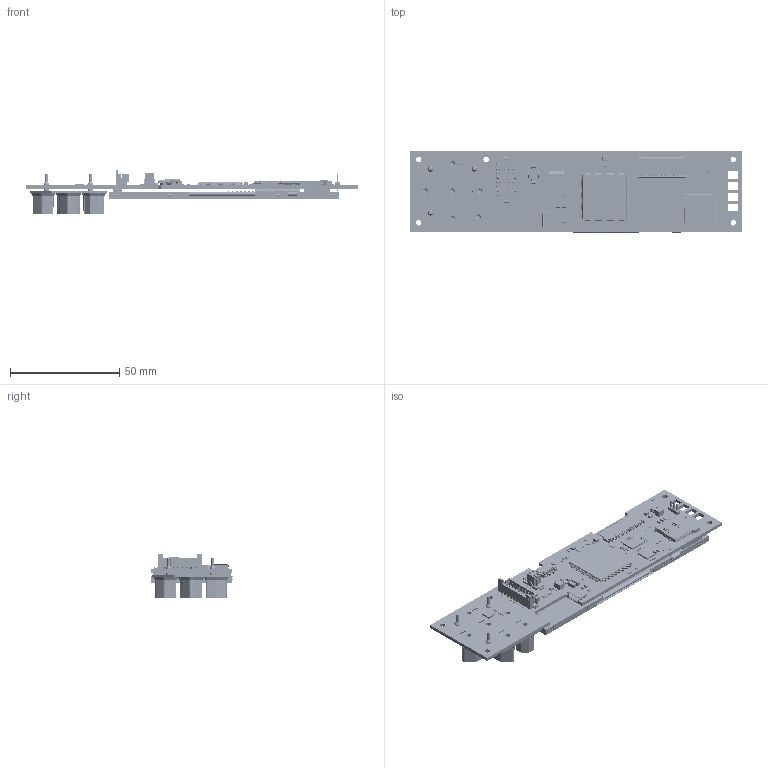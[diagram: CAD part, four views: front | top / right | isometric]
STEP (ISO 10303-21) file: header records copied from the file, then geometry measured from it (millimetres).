
FILE_DESCRIPTION (( 'STEP AP214' ), '1' );
FILE_NAME ('CFA039A0-N-VDNT.STEP', '2025-03-05T21:58:36', ( '' ), ( '' ), 'SwSTEP 2.0', 'SolidWorks 2021', '' );
FILE_SCHEMA (( 'AUTOMOTIVE_DESIGN' ));
Length unit declared in the file: millimetre
Products named in the file (54): INDC1005X06N_CMP-007-000017-2; 16110_CAM_00191_SCH-1; BGA24C100P5X5_600X800X100_CMP-019-00054-1; 15031_CAM_CMP-008-000007-2; 00133_CAM_00133_SCH-15; CFA039A0-N-VDNT; 16120_CAM_16120_SCH-1; SON127P600X80_HS-9N_CMP-002-00081-2; FP-GJM155-0_05-IPC_B_CMP-001-00087-1; CAPC3225X27N_CMP-019-00051-2; 01747-Footprint-1_CMP-001-0007-3; ERJ2R_Family_CAM_CMP-009-00192-1; cfa-10119; CAPC1005X05N_CMP-001-00083-1; 00133_CAM_CMP-004-000007-3; CAPC1005X05N_CMP-001-00083-3; FP-CL313-IPC_B_CMP-001-00085-3; 01678-Footprint-1_CMP-001-0006-5; DIOD-SOT363-6_V_CMP-001-0008-1; ERJ2R_Family_CAM_CMP-009-00179-2; 00133_CAM_CMP-004-000007-1; CFAPN15068-Footprint-1_CMP-004-00031-1; uUSB_shell; 15032_CAM_15032_SCH-1; QFN40P400X400X80_HS-29N_CMP-007-000049-3; ERJ2R_Family_CAM_CMP-009-00179-1; CAPC1608X06N_CMP-001-00084-1; 17015-Footprint-1_CMP-007-000050-1; VHB_Tape_narrow; ERJ2R_Family_CAM_CMP-005-000029-2; 00289_CAM_CMP-004-000001-1; ERJ2R_Family_CAM_CMP-009-00180-2; 01655_CAM_01655_SCH-1; 16130 rough uSD slot; 01646_CAM_CMP-004-000009-2; 03093_CAM_R_CMP-002-00083-1; ERJ2G_FAMILY_CAM_03185_SCH-1; 16175-Footprint-1_CMP-007-000022-2; CL05_Footprint_CMP-007-000018-1; CQFP50P2470X2470X160-144N_CMP-001-0003-4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
Assembly tree (105 placements, depth 3):
  CFA039A0-N-VDNT
    cfa-10119
      cfa-10119_BOARD
      17015-Footprint-1_CMP-007-000050-1
      FP-CL313-IPC_B_CMP-001-00085-3  x9
      QFN40P400X400X80_HS-29N_CMP-007-000049-3
      ERJ2R_Family_CAM_CMP-009-00191-1  x18
      ERJ2R_Family_CAM_CMP-009-00192-1
      ERJ2R_Family_CAM_CMP-009-00179-2
      FP-GJM155-0_05-IPC_B_CMP-001-00087-1  x2
      16175-Footprint-1_CMP-007-000022-2
      INDC1005X06N_CMP-007-000017-2
      FP-GRM188-0_15-MFG_CMP-007-000019-1  x2
      00133_CAM_00133_SCH-15  x2
      CL05_Footprint_CMP-007-000018-1
      16110_CAM_00191_SCH-1  x2
      CFAPN15068-Footprint-1_CMP-004-00031-1
      BGA20C40P4X5_162X201X62_CMP-001-0016-1
      SON127P600X80_HS-9N_CMP-002-00081-2
      ERJ2R_Family_CAM_CMP-009-00180-2  x2
      16110_CAM_CMP-005-000019-1  x2
      FP-ERJ-3GEY0R00V-IPC_C_CMP-005-000001-2
      ERJ2R_Family_CAM_CMP-005-000029-2  x3
      ERJ2R_Family_CAM_CMP-009-00179-1  x14
      16110_CAM_CMP-005-000015-2  x2
      INDC2016X10N_CMP-001-0017-1
      01747-Footprint-1_CMP-001-0007-3
      FP-BLM21-0_2-t0_85-e0_5-IPC_C_CMP-001-0009-1
      DIOD-SOT363-6_V_CMP-001-0008-1
      CAPC1005X05N_CMP-001-00083-1  x2
      CAPC3225X27N_CMP-019-00051-2
      00133_CAM_CMP-004-000007-3
      CAPC1005X05N_CMP-001-00083-3
      CAPC3216X18N_CMP-001-00086-1  x2
      00289_CAM_CMP-004-000001-1  x2
      00133_CAM_CMP-004-000007-1  x2
      01646_CAM_CMP-004-000009-2
      CAPC1608X06N_CMP-001-00084-1  x2
      15031_CAM_CMP-008-000007-2
      ERJ2G_FAMILY_CAM_03185_SCH-1
      16120_CAM_16120_SCH-1
      03093_CAM_R_CMP-002-00083-1
      15032_CAM_15032_SCH-1
      01655_CAM_01655_SCH-1
      CQFP50P2470X2470X160-144N_CMP-001-0003-4
      BGA24C100P5X5_600X800X100_CMP-019-00054-1
      01678-Footprint-1_CMP-001-0006-5
    kp835-update holes
    CFAF480128A0-039TN
    VHB_Tape_10099-1
    VHB_Tape_narrow
    uUSB_shell
    CS050Z10G-A0
    16130 rough uSD slot
Bounding box: 152 x 37.77 x 20.15 mm (x, y, z)
Volume: 23085.6 mm3; surface area: 35271.6 mm2
Topology: 747 solids, 839 shells, 22218 faces, 60457 edges, 39249 vertices
Faces by surface type: plane 12636, cylinder 5124, bspline 3625, sphere 741, torus 88, cone 4
Entity records: 622906 total; most frequent: CARTESIAN_POINT 129311, ORIENTED_EDGE 81484, DIRECTION 61627, EDGE_CURVE 40758, VERTEX_POINT 26602, LINE 26209, VECTOR 26209, AXIS2_PLACEMENT_3D 17709
